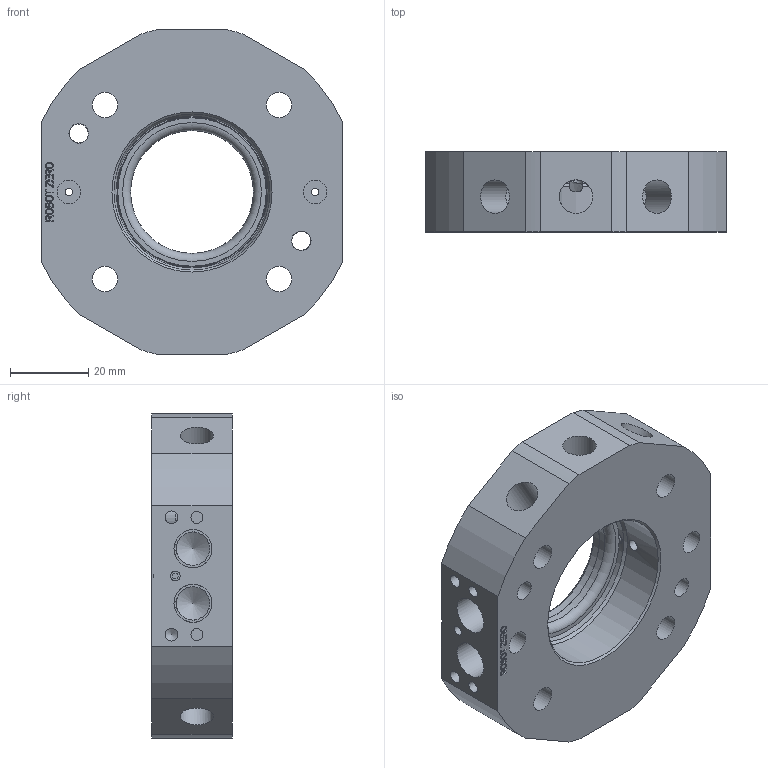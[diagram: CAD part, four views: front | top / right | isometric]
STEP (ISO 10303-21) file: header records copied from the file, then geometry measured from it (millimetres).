
FILE_DESCRIPTION (( 'STEP AP214' ), '1' );
FILE_NAME ('1507-D49A REV00.STEP', '2019-02-26T15:54:47', ( 'Any Employee' ), ( 'Applied Robotics Inc.' ), 'SwSTEP 2.0', 'SolidWorks 2019', '' );
FILE_SCHEMA (( 'AUTOMOTIVE_DESIGN' ));
Length unit declared in the file: millimetre
Products named in the file (5): 1507-D50N; 48417; 96503-B1054; 1507-D49A REV00; 90507-B1029
Assembly tree (6 placements, depth 2):
  1507-D49A REV00
    1507-D50N
    96503-B1054
    90507-B1029  x2
    48417  x2
Bounding box: 77 x 20.5 x 83 mm (x, y, z)
Volume: 73714.9 mm3; surface area: 26493.7 mm2
Topology: 6 solids, 6 shells, 297 faces, 761 edges, 501 vertices
Faces by surface type: plane 135, cylinder 71, bspline 58, cone 29, torus 4
Full cylindrical faces by diameter (mm): 2 x6, 2.5 x2, 3 x3, 3.054 x4, 3.3 x12, 4.825 x2, 5 x2, 6.002 x2, 6.5 x4, 7.82 x2, 7.825 x2, 8.566 x6, 9.728 x2, 10.5 x4, 31.45 x1, 31.55 x1, 38 x1, 38.93 x1, 39.015 x1, 40.012 x1
Entity records: 11772 total; most frequent: CARTESIAN_POINT 5361, ORIENTED_EDGE 1238, DIRECTION 1050, EDGE_CURVE 619, VERTEX_POINT 446, EDGE_LOOP 433, AXIS2_PLACEMENT_3D 365, FACE_OUTER_BOUND 338
